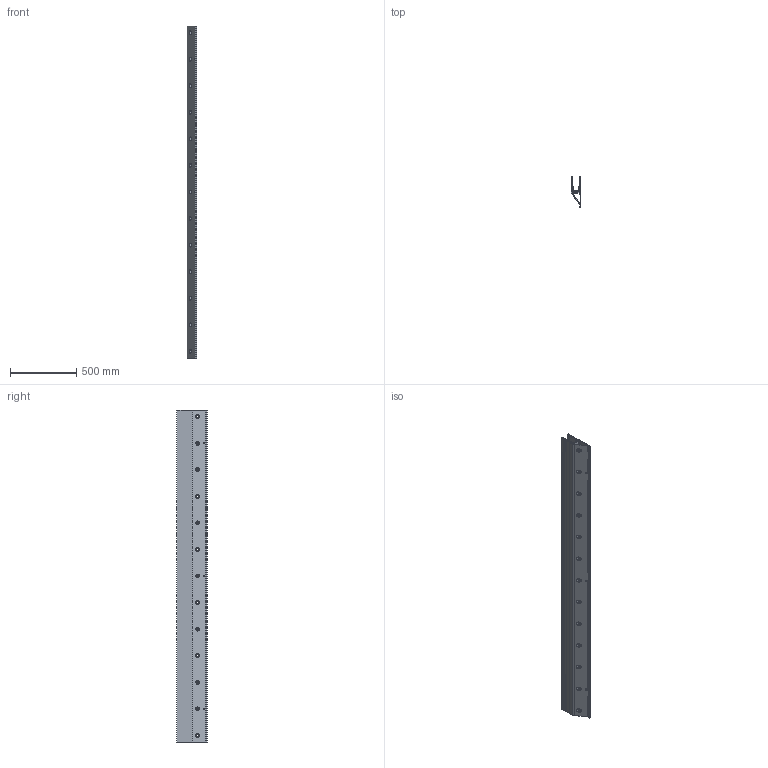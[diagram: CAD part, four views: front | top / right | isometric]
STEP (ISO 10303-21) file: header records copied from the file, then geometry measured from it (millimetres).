
FILE_DESCRIPTION(/* description */ ('TURBOFLEX glass profile 1.0kN side mount TL-3621 L=2500mm, aluminum mill finish'),/* implementation_level */ '2;1');
FILE_NAME(/* name */ '1036210021x.stp',/* time_stamp */ '2025-11-13T10:28:45+01:00',/* author */ ('nethmini'),/* organization */ (''),/* preprocessor_version */ 'ST-DEVELOPER v19.2',/* originating_system */ 'Autodesk Inventor 2024',/* authorisation */ '');
FILE_SCHEMA (('AUTOMOTIVE_DESIGN { 1 0 10303 214 3 1 1 }'));
Length unit declared in the file: millimetre
Products named in the file (1): 10362100210
Bounding box: 74.83 x 229.95 x 2500 mm (x, y, z)
Volume: 8490241.6 mm3; surface area: 4236695.6 mm2
Topology: 1 solids, 1 shells, 232 faces, 696 edges, 463 vertices
Faces by surface type: cylinder 140, plane 92
Full cylindrical faces by diameter (mm): 12 x9, 14 x13, 30 x13
Entity records: 8189 total; most frequent: CARTESIAN_POINT 1452, DIRECTION 1424, ORIENTED_EDGE 1392, EDGE_CURVE 696, AXIS2_PLACEMENT_3D 507, VERTEX_POINT 463, LINE 410, VECTOR 410
